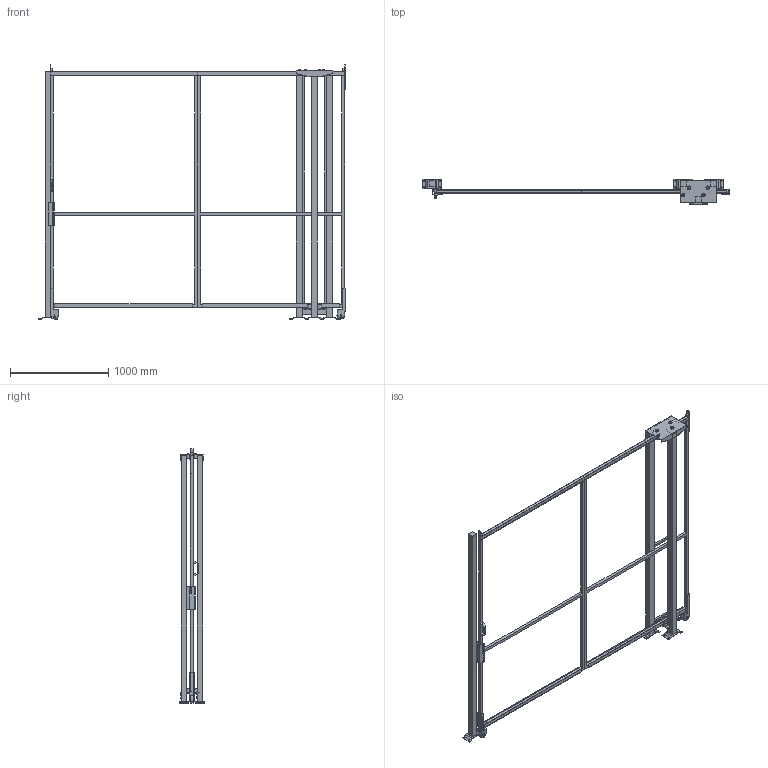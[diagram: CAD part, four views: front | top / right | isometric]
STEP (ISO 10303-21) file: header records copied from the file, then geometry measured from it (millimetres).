
FILE_DESCRIPTION(/* description */ (''),/* implementation_level */ '2;1');
FILE_NAME(/* name */ 'C:\SafeGuarding\ELABORATI\KLADKA_2025-03-20-12-12-20.stp',/* time_stamp */ '2025-03-20T12:12:23+01:00',/* author */ ('admin'),/* organization */ (''),/* preprocessor_version */ 'ST-DEVELOPER v18.1',/* originating_system */ 'AutoCAD Mechanical',/* authorisation */ '');
FILE_SCHEMA (('AUTOMOTIVE_DESIGN { 1 0 10303 214 3 1 1 }'));
Length unit declared in the file: millimetre
Products named in the file (4): Product; VFPA.REPE30.15002400; VFPA.REPE2002502400; P_VFMA.V360SDU.2520
Assembly tree (7 placements, depth 2):
  Product
    VFPA.REPE30.15002400  x2
    VFPA.REPE2002502400
    P_VFMA.V360SDU.2520  x4
Bounding box: 3125.97 x 264.14 x 2590.02 mm (x, y, z)
Volume: 58202054.2 mm3; surface area: 7405203.9 mm2
Topology: 48 solids, 59 shells, 501 faces, 1673 edges, 1681 vertices
Faces by surface type: plane 449, cylinder 50, sphere 2
Full cylindrical faces by diameter (mm): 9 x4, 11 x16, 13 x4, 30 x6, 36 x8, 80 x2
Entity records: 13969 total; most frequent: CARTESIAN_POINT 2945, DIRECTION 2124, ORIENTED_EDGE 1962, EDGE_CURVE 1030, LINE 1020, VECTOR 1020, VERTEX_POINT 726, AXIS2_PLACEMENT_3D 552
